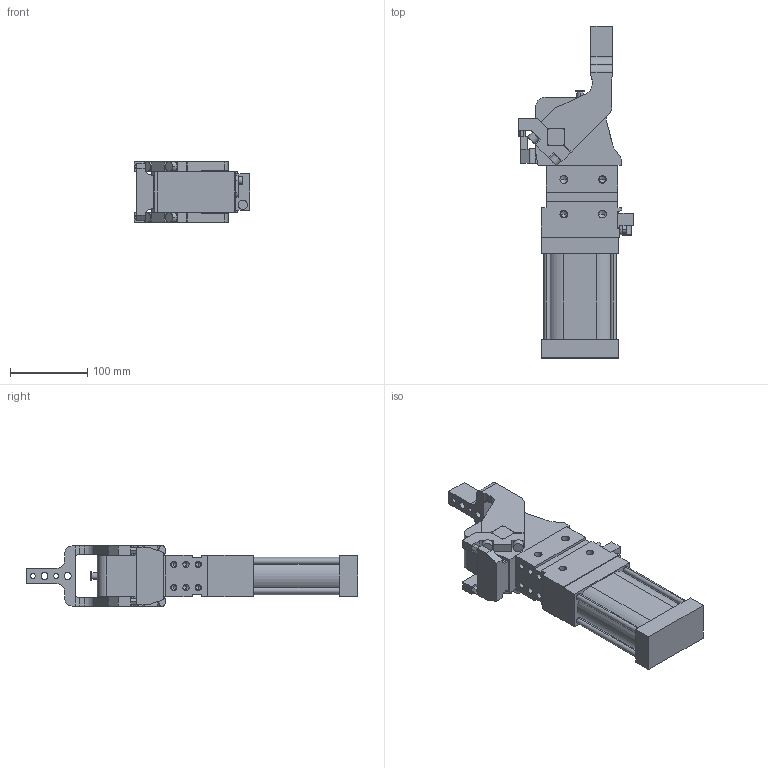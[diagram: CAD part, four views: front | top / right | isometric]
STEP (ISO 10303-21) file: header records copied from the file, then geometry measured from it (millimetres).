
FILE_DESCRIPTION (( 'STEP AP214' ), '1' );
FILE_NAME ('cpl63th3csi1g_75.STEP', '2023-01-26T13:03:49', ( '' ), ( '' ), 'SwSTEP 2.0', 'SolidWorks 2022', '' );
FILE_SCHEMA (( 'AUTOMOTIVE_DESIGN' ));
Length unit declared in the file: millimetre
Products named in the file (4): meccanica_cpl_63_tassello_esterno; blocchetto_VEP_0; leva_h3cs_cpl63t; cpl63th3csi1g_75
Assembly tree (3 placements, depth 2):
  cpl63th3csi1g_75
    meccanica_cpl_63_tassello_esterno
    blocchetto_VEP_0
    leva_h3cs_cpl63t
Bounding box: 149.5 x 430.5 x 79 mm (x, y, z)
Volume: 1842961 mm3; surface area: 202301.5 mm2
Topology: 3 solids, 3 shells, 435 faces, 1148 edges, 713 vertices
Faces by surface type: plane 231, cylinder 154, cone 50
Entity records: 14692 total; most frequent: CARTESIAN_POINT 2332, DIRECTION 2318, ORIENTED_EDGE 2204, EDGE_CURVE 1102, AXIS2_PLACEMENT_3D 781, LINE 756, VECTOR 756, VERTEX_POINT 713
